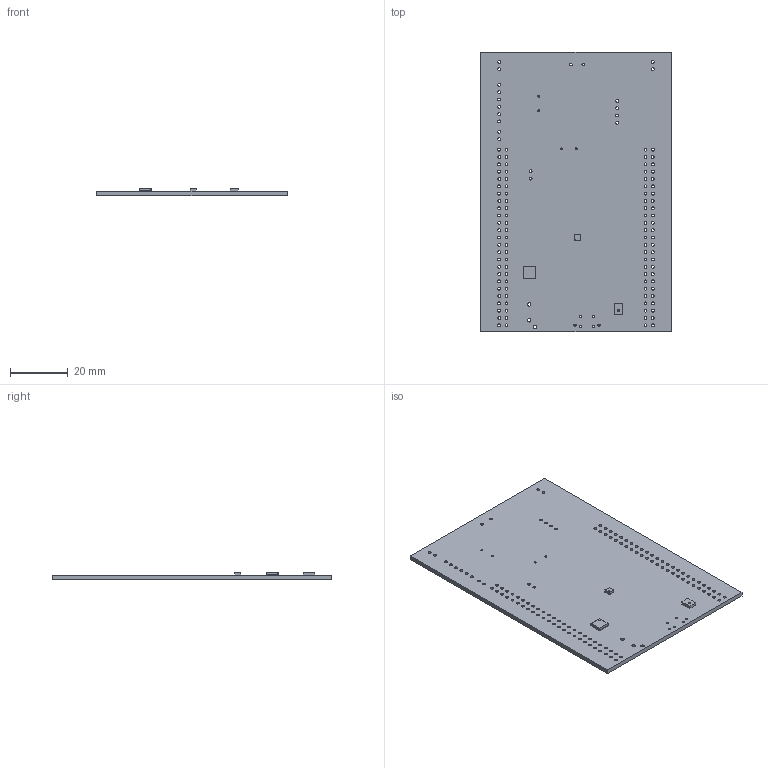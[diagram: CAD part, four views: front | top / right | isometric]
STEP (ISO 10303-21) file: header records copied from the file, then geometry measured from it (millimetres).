
FILE_DESCRIPTION(('Open CASCADE Model'),'2;1');
FILE_NAME('Open CASCADE Shape Model','2020-09-28T12:00:09',('Author'),( 'Open CASCADE'),'Open CASCADE STEP processor 6.8','Open CASCADE 6.8' ,'Unknown');
FILE_SCHEMA(('AUTOMOTIVE_DESIGN { 1 0 10303 214 1 1 1 1 }'));
Length unit declared in the file: millimetre
Products named in the file (21): PCB; Board; U7; LGA-16; 1348808496; Extruded; U10; 1348807952; 1341445136; Cylinder; 1341445264; 1341445392; U5; LGA12-2x2x0_9; 1341445520; 985922648
Assembly tree (20 placements, depth 4):
  PCB
    Board
    U7
      LGA-16
      1348808496
        Extruded
    U10
      1348807952
        Extruded
      1341445136
        Cylinder
      1341445264
        Cylinder
      1341445392
        Cylinder
    U5
      LGA12-2x2x0_9
      1341445520
        Cylinder
      985922648
        Extruded
Bounding box: 66 x 97 x 2.67 mm (x, y, z)
Volume: 9949 mm3; surface area: 13932.6 mm2
Topology: 10 solids, 10 shells, 327 faces, 831 edges, 554 vertices
Faces by surface type: plane 186, cylinder 139, torus 2
Full cylindrical faces by diameter (mm): 0.2 x1, 0.5 x2, 0.65 x2, 0.7 x5, 0.8 x2, 0.9 x2, 1 x120, 1.2 x3
Entity records: 11607 total; most frequent: DIRECTION 1811, CARTESIAN_POINT 1733, ORIENTED_EDGE 1662, EDGE_CURVE 831, AXIS2_PLACEMENT_3D 632, FACE_BOUND 623, EDGE_LOOP 623, VERTEX_POINT 554
